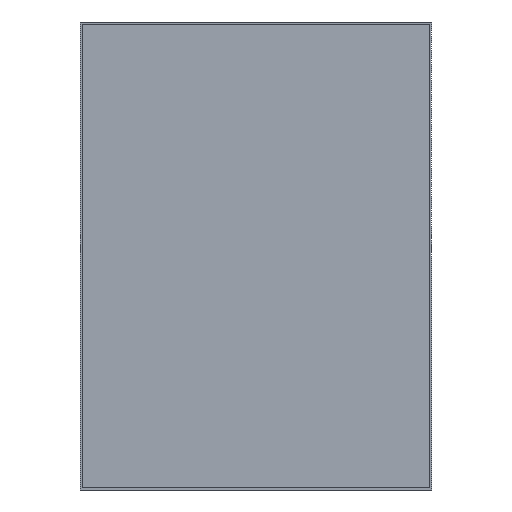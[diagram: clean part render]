
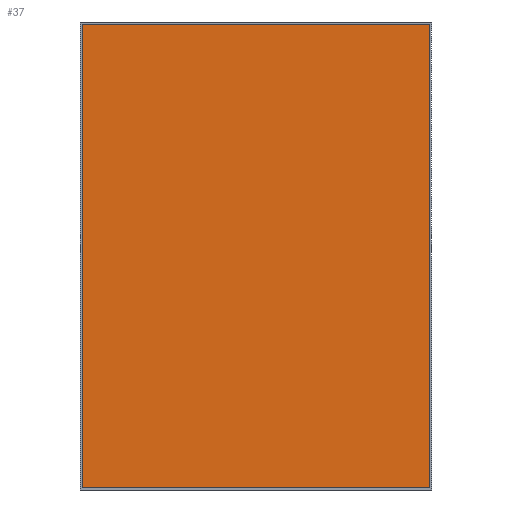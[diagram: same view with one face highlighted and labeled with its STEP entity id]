
A CAD part, front view. The second image highlights one B-rep face of the part: STEP entity #37.
In plain terms, the highlighted planar face has unit normal (0, -1, 0).
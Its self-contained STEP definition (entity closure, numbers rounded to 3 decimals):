
#37=ADVANCED_FACE('',(#55),#259,.T.);
#55=FACE_OUTER_BOUND('',#73,.T.);
#73=EDGE_LOOP('',(#139,#140,#141,#142));
#139=ORIENTED_EDGE('',*,*,#181,.F.);
#140=ORIENTED_EDGE('',*,*,#178,.F.);
#141=ORIENTED_EDGE('',*,*,#175,.F.);
#142=ORIENTED_EDGE('',*,*,#171,.F.);
#171=EDGE_CURVE('',#237,#238,#209,.T.);
#175=EDGE_CURVE('',#238,#241,#213,.T.);
#178=EDGE_CURVE('',#241,#243,#216,.T.);
#181=EDGE_CURVE('',#243,#237,#219,.T.);
#209=B_SPLINE_CURVE_WITH_KNOTS('',1,(#420,#421),.UNSPECIFIED.,.F.,.F.,(2,
2),(-2865.,-1875.),.UNSPECIFIED.);
#213=B_SPLINE_CURVE_WITH_KNOTS('',1,(#428,#429),.UNSPECIFIED.,.F.,.F.,(2,
2),(-1875.,-1435.),.UNSPECIFIED.);
#216=B_SPLINE_CURVE_WITH_KNOTS('',1,(#434,#435),.UNSPECIFIED.,.F.,.F.,(2,
2),(-1435.,-445.),.UNSPECIFIED.);
#219=B_SPLINE_CURVE_WITH_KNOTS('',1,(#440,#441),.UNSPECIFIED.,.F.,.F.,(2,
2),(-445.,-5.),.UNSPECIFIED.);
#237=VERTEX_POINT('',#412);
#238=VERTEX_POINT('',#413);
#241=VERTEX_POINT('',#416);
#243=VERTEX_POINT('',#418);
#259=PLANE('',#295);
#295=AXIS2_PLACEMENT_3D('',#410,#315,$);
#315=DIRECTION('',(0.,-1.,0.));
#410=CARTESIAN_POINT('',(3984.232,1189.17,452.352));
#412=CARTESIAN_POINT('',(3244.232,1189.17,452.352));
#413=CARTESIAN_POINT('',(3244.232,1189.17,1442.352));
#416=CARTESIAN_POINT('',(3984.232,1189.17,1442.352));
#418=CARTESIAN_POINT('',(3984.232,1189.17,452.352));
#420=CARTESIAN_POINT('',(3244.232,1189.17,452.352));
#421=CARTESIAN_POINT('',(3244.232,1189.17,1442.352));
#428=CARTESIAN_POINT('',(3244.232,1189.17,1442.352));
#429=CARTESIAN_POINT('',(3984.232,1189.17,1442.352));
#434=CARTESIAN_POINT('',(3984.232,1189.17,1442.352));
#435=CARTESIAN_POINT('',(3984.232,1189.17,452.352));
#440=CARTESIAN_POINT('',(3984.232,1189.17,452.352));
#441=CARTESIAN_POINT('',(3244.232,1189.17,452.352));
